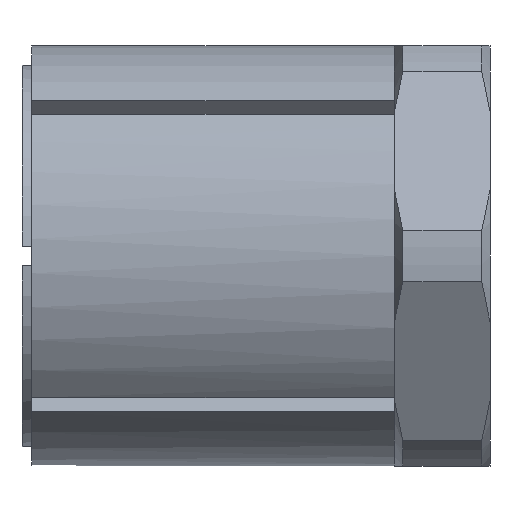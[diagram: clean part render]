
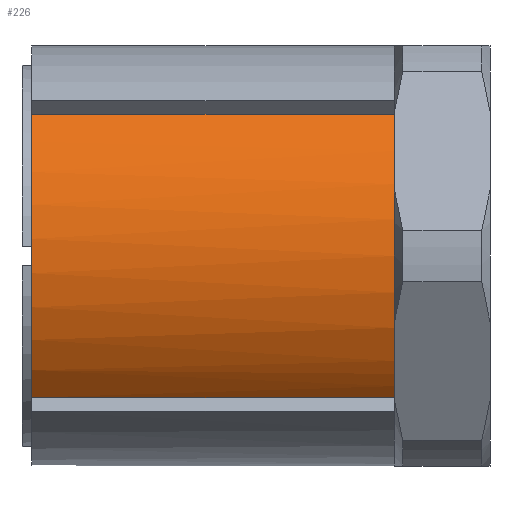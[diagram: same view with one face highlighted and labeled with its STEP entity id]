
A CAD part, front view. The second image highlights one B-rep face of the part: STEP entity #226.
In plain terms, the highlighted cylindrical face has radius 11 mm (diameter 22 mm), a partial arc.
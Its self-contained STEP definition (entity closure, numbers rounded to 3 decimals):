
#116 = LINE ( 'NONE', #2350, #118 ) ;
#118 = VECTOR ( 'NONE', #2351, 1000. ) ;
#121 = LINE ( 'NONE', #2359, #122 ) ;
#122 = VECTOR ( 'NONE', #2360, 1000. ) ;
#124 = CIRCLE ( 'NONE', #2803, 11. ) ;
#127 = CIRCLE ( 'NONE', #2805, 11. ) ;
#129 = CIRCLE ( 'NONE', #2804, 11. ) ;
#140 = CIRCLE ( 'NONE', #2802, 11. ) ;
#226 = ADVANCED_FACE ( 'NONE', ( #1165 ), #1158, .T. ) ;
#319 = EDGE_LOOP ( 'NONE', ( #360, #403, #333, #358, #398, #399 ) ) ;
#333 = ORIENTED_EDGE ( 'NONE', *, *, #2627, .F. ) ;
#358 = ORIENTED_EDGE ( 'NONE', *, *, #2615, .T. ) ;
#360 = ORIENTED_EDGE ( 'NONE', *, *, #2617, .T. ) ;
#398 = ORIENTED_EDGE ( 'NONE', *, *, #2620, .T. ) ;
#399 = ORIENTED_EDGE ( 'NONE', *, *, #2619, .T. ) ;
#403 = ORIENTED_EDGE ( 'NONE', *, *, #2618, .T. ) ;
#1108 = VERTEX_POINT ( 'NONE', #1751 ) ;
#1158 = CYLINDRICAL_SURFACE ( 'NONE', #2664, 11. ) ;
#1165 = FACE_OUTER_BOUND ( 'NONE', #319, .T. ) ;
#1477 = DIRECTION ( 'NONE',  ( 0., 0., 1. ) ) ;
#1481 = DIRECTION ( 'NONE',  ( -1., 0., 0. ) ) ;
#1482 = CARTESIAN_POINT ( 'NONE',  ( 0., 0., 0. ) ) ;
#1751 = CARTESIAN_POINT ( 'NONE',  ( 19., -9.526, 5.5 ) ) ;
#2106 = CARTESIAN_POINT ( 'NONE',  ( 19., -8.124, -7.417 ) ) ;
#2119 = CARTESIAN_POINT ( 'NONE',  ( 19., -8.124, 7.417 ) ) ;
#2121 = CARTESIAN_POINT ( 'NONE',  ( 0., -8.124, -7.417 ) ) ;
#2124 = CARTESIAN_POINT ( 'NONE',  ( 19., -9.526, -5.5 ) ) ;
#2126 = CARTESIAN_POINT ( 'NONE',  ( 0., -8.124, 7.417 ) ) ;
#2345 = CARTESIAN_POINT ( 'NONE',  ( 19., 0., 0. ) ) ;
#2350 = CARTESIAN_POINT ( 'NONE',  ( 0., -8.124, -7.417 ) ) ;
#2351 = DIRECTION ( 'NONE',  ( 1., 0., 0. ) ) ;
#2355 = CARTESIAN_POINT ( 'NONE',  ( 19., 0., 0. ) ) ;
#2356 = CARTESIAN_POINT ( 'NONE',  ( 19., 0., 0. ) ) ;
#2357 = DIRECTION ( 'NONE',  ( -1., 0., 0. ) ) ;
#2358 = DIRECTION ( 'NONE',  ( 0., 0., 1. ) ) ;
#2359 = CARTESIAN_POINT ( 'NONE',  ( 0., -8.124, 7.417 ) ) ;
#2360 = DIRECTION ( 'NONE',  ( -1., 0., 0. ) ) ;
#2362 = DIRECTION ( 'NONE',  ( -1., 0., 0. ) ) ;
#2363 = DIRECTION ( 'NONE',  ( 0., 0., 1. ) ) ;
#2365 = DIRECTION ( 'NONE',  ( -1., 0., 0. ) ) ;
#2366 = DIRECTION ( 'NONE',  ( 0., 0., 1. ) ) ;
#2374 = CARTESIAN_POINT ( 'NONE',  ( 0., 0., 0. ) ) ;
#2383 = DIRECTION ( 'NONE',  ( -1., 0., 0. ) ) ;
#2384 = DIRECTION ( 'NONE',  ( 0., 0., 1. ) ) ;
#2521 = VERTEX_POINT ( 'NONE', #2119 ) ;
#2523 = VERTEX_POINT ( 'NONE', #2121 ) ;
#2524 = VERTEX_POINT ( 'NONE', #2106 ) ;
#2527 = VERTEX_POINT ( 'NONE', #2124 ) ;
#2529 = VERTEX_POINT ( 'NONE', #2126 ) ;
#2615 = EDGE_CURVE ( 'NONE', #2523, #2524, #116, .T. ) ;
#2617 = EDGE_CURVE ( 'NONE', #1108, #2521, #124, .T. ) ;
#2618 = EDGE_CURVE ( 'NONE', #2521, #2529, #121, .T. ) ;
#2619 = EDGE_CURVE ( 'NONE', #2527, #1108, #127, .T. ) ;
#2620 = EDGE_CURVE ( 'NONE', #2524, #2527, #129, .T. ) ;
#2627 = EDGE_CURVE ( 'NONE', #2523, #2529, #140, .T. ) ;
#2664 = AXIS2_PLACEMENT_3D ( 'NONE', #1482, #1481, #1477 ) ;
#2802 = AXIS2_PLACEMENT_3D ( 'NONE', #2374, #2383, #2384 ) ;
#2803 = AXIS2_PLACEMENT_3D ( 'NONE', #2355, #2357, #2358 ) ;
#2804 = AXIS2_PLACEMENT_3D ( 'NONE', #2356, #2365, #2366 ) ;
#2805 = AXIS2_PLACEMENT_3D ( 'NONE', #2345, #2362, #2363 ) ;
